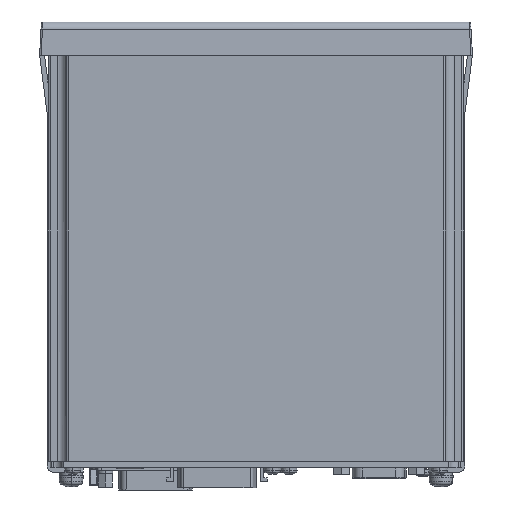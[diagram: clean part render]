
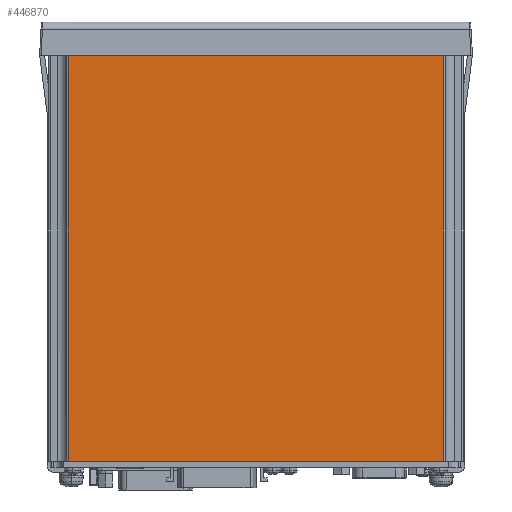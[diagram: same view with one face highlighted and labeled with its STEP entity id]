
A CAD part, front view. The second image highlights one B-rep face of the part: STEP entity #446870.
In plain terms, the highlighted planar face has unit normal (0, -1, 0).
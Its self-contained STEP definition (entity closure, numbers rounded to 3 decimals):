
#5170=CARTESIAN_POINT('',(8.5,5.,135.));
#5180=VERTEX_POINT('',#5170);
#8960=CARTESIAN_POINT('',(133.5,5.,135.));
#8970=VERTEX_POINT('',#8960);
#9000=CARTESIAN_POINT('',(0.,5.,135.));
#9010=DIRECTION('',(-1.,0.,0.));
#9020=VECTOR('',#9010,1.);
#9030=LINE('',#9000,#9020);
#9040=EDGE_CURVE('',#8970,#5180,#9030,.T.);
#30350=CARTESIAN_POINT('',(8.5,5.,0.));
#30360=VERTEX_POINT('',#30350);
#30390=CARTESIAN_POINT('',(0.,5.,0.));
#30400=DIRECTION('',(-1.,0.,0.));
#30410=VECTOR('',#30400,1.);
#30420=LINE('',#30390,#30410);
#30430=CARTESIAN_POINT('',(133.5,5.,0.));
#30440=VERTEX_POINT('',#30430);
#30450=EDGE_CURVE('',#30440,#30360,#30420,.T.);
#446610=CARTESIAN_POINT('',(8.5,5.,0.));
#446620=DIRECTION('',(0.,0.,1.));
#446630=VECTOR('',#446620,1.);
#446640=LINE('',#446610,#446630);
#446650=EDGE_CURVE('',#30360,#5180,#446640,.T.);
#446710=CARTESIAN_POINT('',(133.5,5.,0.));
#446720=DIRECTION('',(-0.,-1.,-0.));
#446730=DIRECTION('',(-1.,0.,0.));
#446740=AXIS2_PLACEMENT_3D('',#446710,#446720,#446730);
#446750=PLANE('',#446740);
#446760=ORIENTED_EDGE('',*,*,#446650,.F.);
#446770=ORIENTED_EDGE('',*,*,#9040,.T.);
#446780=CARTESIAN_POINT('',(133.5,5.,0.));
#446790=DIRECTION('',(0.,0.,1.));
#446800=VECTOR('',#446790,1.);
#446810=LINE('',#446780,#446800);
#446820=EDGE_CURVE('',#30440,#8970,#446810,.T.);
#446830=ORIENTED_EDGE('',*,*,#446820,.T.);
#446840=ORIENTED_EDGE('',*,*,#30450,.F.);
#446850=EDGE_LOOP('',(#446840,#446830,#446770,#446760));
#446860=FACE_OUTER_BOUND('',#446850,.T.);
#446870=ADVANCED_FACE('',(#446860),#446750,.T.);
